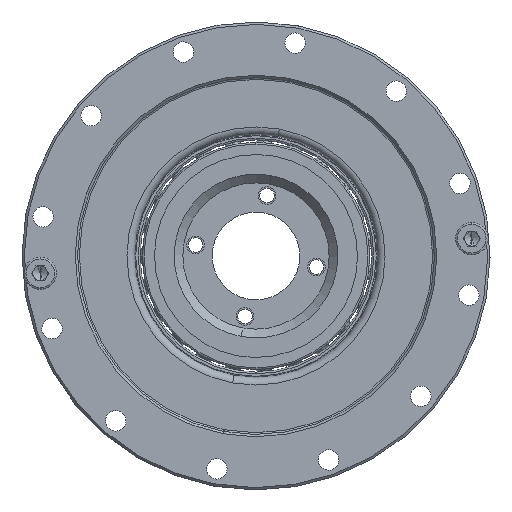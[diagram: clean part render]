
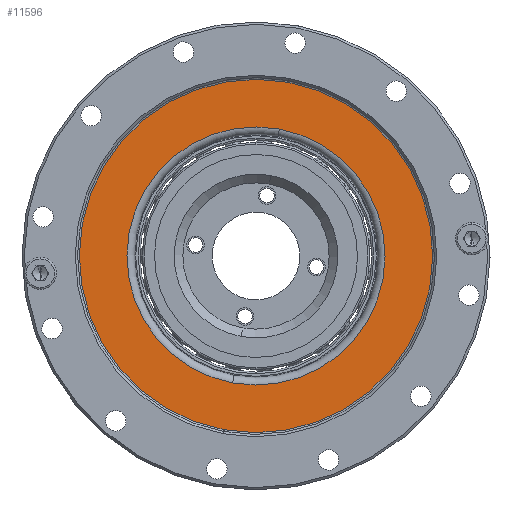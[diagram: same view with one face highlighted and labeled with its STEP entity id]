
A CAD part, left-side view. The second image highlights one B-rep face of the part: STEP entity #11596.
In plain terms, the highlighted planar face has unit normal (-1, 0, 0).
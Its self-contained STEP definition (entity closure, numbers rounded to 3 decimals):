
#10374=CARTESIAN_POINT('',(13.564,0.,0.));
#10375=DIRECTION('',(1.,0.,0.));
#10376=DIRECTION('',(0.,0.,1.));
#10377=AXIS2_PLACEMENT_3D('',#10374,#10375,#10376);
#10379=CARTESIAN_POINT('',(13.564,0.,0.));
#10380=DIRECTION('',(1.,0.,0.));
#10381=DIRECTION('',(0.,0.,-1.));
#10382=AXIS2_PLACEMENT_3D('',#10379,#10380,#10381);
#10384=CARTESIAN_POINT('',(13.564,0.,0.));
#10385=DIRECTION('',(-1.,0.,0.));
#10386=DIRECTION('',(0.,0.,-1.));
#10387=AXIS2_PLACEMENT_3D('',#10384,#10385,#10386);
#10389=CARTESIAN_POINT('',(13.564,0.,0.));
#10390=DIRECTION('',(-1.,0.,0.));
#10391=DIRECTION('',(0.,0.,1.));
#10392=AXIS2_PLACEMENT_3D('',#10389,#10390,#10391);
#10631=CARTESIAN_POINT('',(13.564,0.,
22.061));
#10632=CARTESIAN_POINT('',(13.564,0.,
-22.061));
#10633=VERTEX_POINT('',#10631);
#10634=VERTEX_POINT('',#10632);
#10635=CARTESIAN_POINT('',(13.564,0.,
30.2));
#10636=CARTESIAN_POINT('',(13.564,0.,
-30.2));
#10637=VERTEX_POINT('',#10635);
#10638=VERTEX_POINT('',#10636);
#11580=CARTESIAN_POINT('',(13.564,0.,0.));
#11581=DIRECTION('',(1.,0.,0.));
#11582=DIRECTION('',(0.,0.,-1.));
#11583=AXIS2_PLACEMENT_3D('',#11580,#11581,#11582);
#11584=PLANE('',#11583);
#11586=ORIENTED_EDGE('',*,*,#11585,.T.);
#11588=ORIENTED_EDGE('',*,*,#11587,.T.);
#11589=EDGE_LOOP('',(#11586,#11588));
#11590=FACE_OUTER_BOUND('',#11589,.F.);
#11592=ORIENTED_EDGE('',*,*,#11591,.T.);
#11593=ORIENTED_EDGE('',*,*,#11570,.T.);
#11594=EDGE_LOOP('',(#11592,#11593));
#11595=FACE_BOUND('',#11594,.F.);
#10378=CIRCLE('',#10377,30.2);
#10383=CIRCLE('',#10382,30.2);
#10388=CIRCLE('',#10387,22.061);
#10393=CIRCLE('',#10392,22.061);
#11570=EDGE_CURVE('',#10633,#10634,#10393,.T.);
#11585=EDGE_CURVE('',#10637,#10638,#10378,.T.);
#11587=EDGE_CURVE('',#10638,#10637,#10383,.T.);
#11591=EDGE_CURVE('',#10634,#10633,#10388,.T.);
#11596=ADVANCED_FACE('',(#11590,#11595),#11584,.F.);
